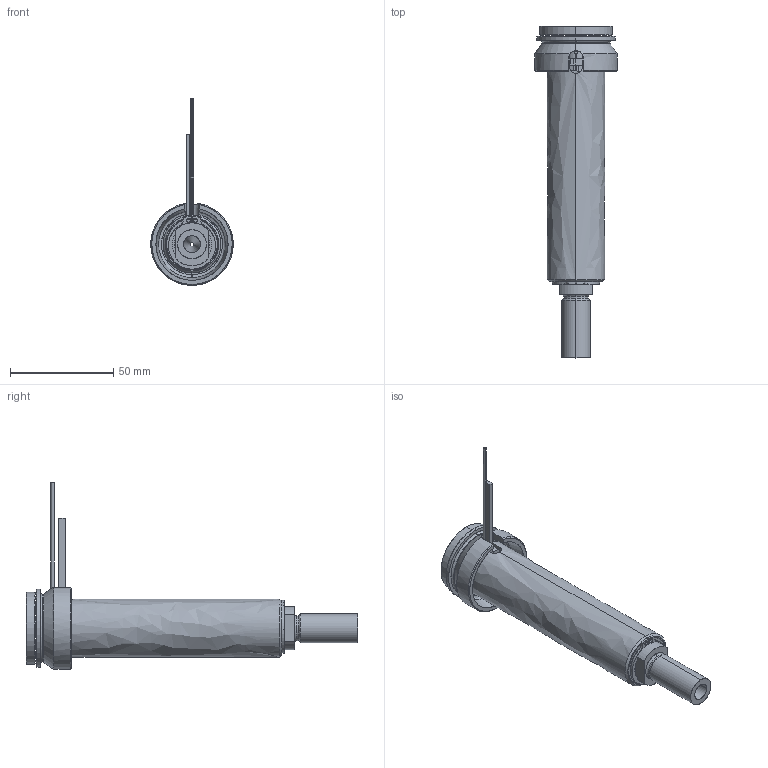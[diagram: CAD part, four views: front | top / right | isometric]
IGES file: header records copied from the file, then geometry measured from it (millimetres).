
Start section: SolidWorks IGES file using analytic representation for surfaces
Global section: file name: C:\Documents and Settings\ws-20\Desktop\TEMPORANEA\UGBE4003-S-A-P-5 [Ød-2.0 P-25 ØC-09].IGS; native system: SolidWorks 2012; preprocessor: SolidWorks 2012; author: ws-20; date: 120306.123711; units: millimetre
Bounding box: 40 x 161 x 90.65 mm (x, y, z)
Surface area: 42941.9 mm2 (no closed solid volume)
Topology: 0 solids, 0 shells, 106 faces, 1837 edges, 1837 vertices
Faces by surface type: revolution 66, bspline 40
